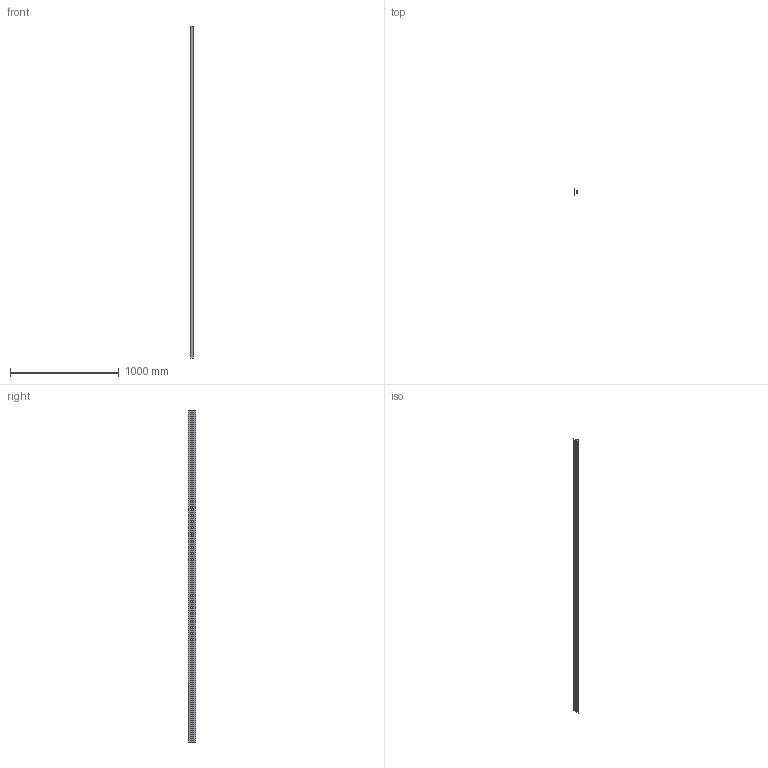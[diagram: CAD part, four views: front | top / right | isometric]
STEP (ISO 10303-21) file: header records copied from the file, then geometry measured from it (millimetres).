
FILE_DESCRIPTION (( 'STEP AP203' ), '1' );
FILE_NAME ('M15P.STEP', '2020-11-16T21:43:09', ( '' ), ( '' ), 'SwSTEP 2.0', 'SolidWorks 2018', '' );
FILE_SCHEMA (( 'CONFIG_CONTROL_DESIGN' ));
Length unit declared in the file: inch
Products named in the file (2): M15P
Bounding box: 22.58 x 68.07 x 3048 mm (x, y, z)
Volume: 236638.5 mm3; surface area: 934899.6 mm2
Topology: 1 solids, 1 shells, 30 faces, 84 edges, 56 vertices
Faces by surface type: plane 18, cylinder 12
Entity records: 1129 total; most frequent: DIRECTION 172, CARTESIAN_POINT 172, ORIENTED_EDGE 168, EDGE_CURVE 84, LINE 60, VECTOR 60, VERTEX_POINT 56, AXIS2_PLACEMENT_3D 56
